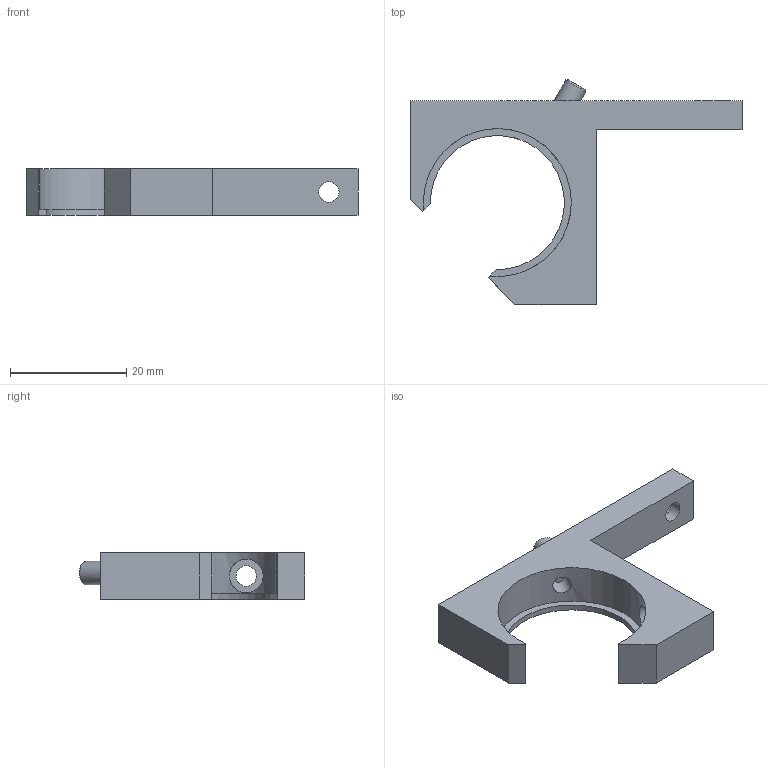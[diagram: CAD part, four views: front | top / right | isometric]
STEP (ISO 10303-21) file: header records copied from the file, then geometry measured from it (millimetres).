
FILE_DESCRIPTION(/* description */ (''),/* implementation_level */ '2;1');
FILE_NAME(/* name */ '5OM122A1-25.stp',/* time_stamp */ '2026-06-03T08:09:50+03:00',/* author */ ('dsgn33'),/* organization */ (''),/* preprocessor_version */ 'ST-DEVELOPER v20',/* originating_system */ 'Autodesk Inventor 2025',/* authorisation */ '');
FILE_SCHEMA (('AUTOMOTIVE_DESIGN { 1 0 10303 214 3 1 1 }'));
Length unit declared in the file: millimetre
Products named in the file (1): 5OM122A1-25_Simplify_1
Bounding box: 57 x 38.64 x 8 mm (x, y, z)
Volume: 4629.1 mm3; surface area: 3366.8 mm2
Topology: 1 solids, 1 shells, 38 faces, 90 edges, 60 vertices
Faces by surface type: plane 25, cylinder 10, cone 3
Full cylindrical faces by diameter (mm): 2 x1, 2.5 x1, 3.242 x1, 3.5 x2, 4 x1, 5.8 x2
Entity records: 1270 total; most frequent: CARTESIAN_POINT 260, DIRECTION 184, ORIENTED_EDGE 178, EDGE_CURVE 89, LINE 64, VECTOR 64, VERTEX_POINT 60, AXIS2_PLACEMENT_3D 60
